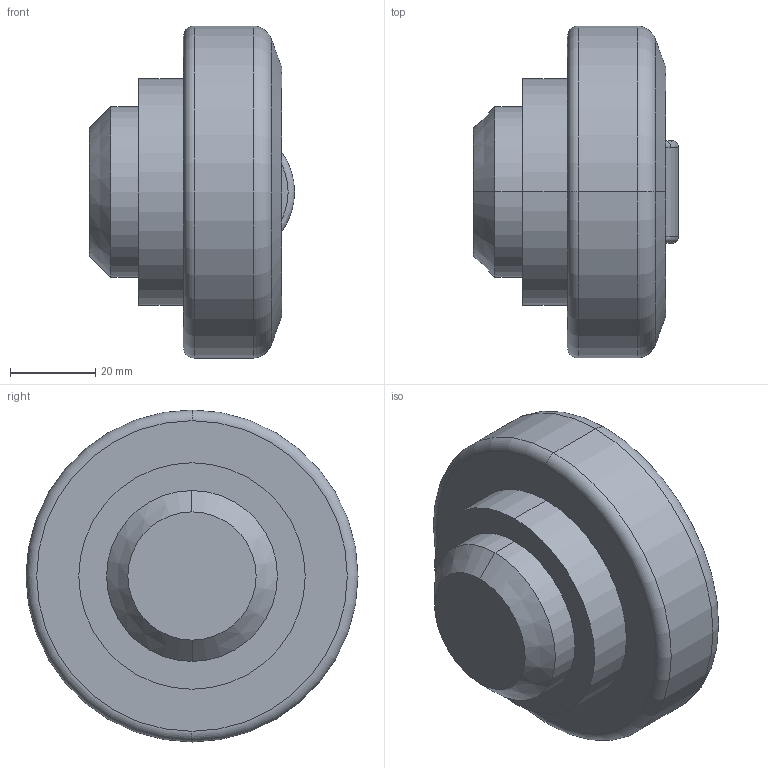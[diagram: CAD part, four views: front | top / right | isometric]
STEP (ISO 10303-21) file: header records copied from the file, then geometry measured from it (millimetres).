
FILE_DESCRIPTION (( 'STEP AP214' ), '1' );
FILE_NAME ('3D40056 CER.STEP', '2018-09-07T10:05:20', ( 'usuario' ), ( 'Hewlett-Packard Company' ), 'SwSTEP 2.0', 'SolidWorks 2013', '' );
FILE_SCHEMA (( 'AUTOMOTIVE_DESIGN' ));
Length unit declared in the file: millimetre
Products named in the file (1): 3D40056 CER
Bounding box: 48 x 77.7 x 77.7 mm (x, y, z)
Volume: 141523.8 mm3; surface area: 16775.2 mm2
Topology: 1 solids, 1 shells, 23 faces, 46 edges, 28 vertices
Faces by surface type: cylinder 7, torus 6, plane 6, cone 4
Entity records: 682 total; most frequent: CARTESIAN_POINT 150, DIRECTION 118, ORIENTED_EDGE 92, AXIS2_PLACEMENT_3D 52, EDGE_CURVE 46, VERTEX_POINT 28, CIRCLE 28, EDGE_LOOP 26
